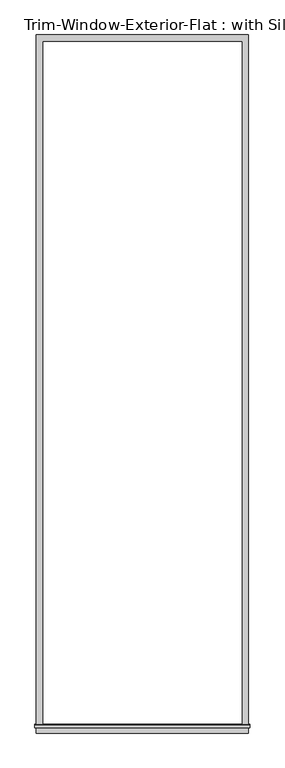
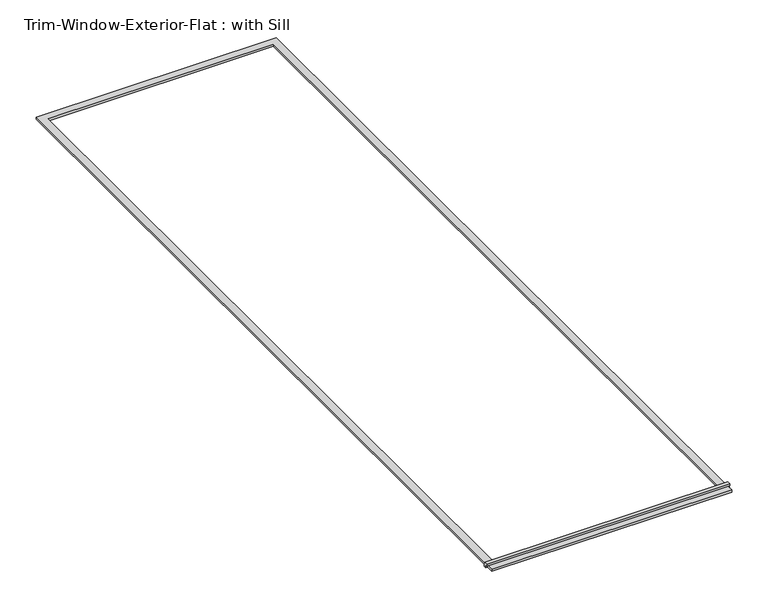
"""IFC4 building model written with IfcOpenShell, lengths in millimetres: proxy geometry, Trim-Window-Exterior-Flat : with Sill."""

from ifc_helpers import new_model, si_unit, frame, origin, origin_with_axes, place, context, project, spatial, polyline, outline, extrude, source, transform, mapped, element, save


def trim_window_exterior_flat_with_sill_953729a5(model_context):
    return source(origin(), model_context, "Body", "SweptSolid", [
        extrude(outline(polyline([(971.55, -6270.5823709), (971.55, -6327.7323709), (-971.55, -6327.7323709), (-971.55, -6270.5823709), (971.55, -6270.5823709)])), origin_with_axes(), (0.0, 0.0, 1.0), 19.05),
        extrude(outline(polyline([(-6280.15, 38.1), (-6250.8580645, 38.1), (-6248.4, 19.05), (-6248.4, 0.0), (-6270.5823709, 0.0), (-6270.5823709, 19.05), (-6280.15, 19.05), (-6280.15, 38.1)])), frame((-984.25, 0.0, 0.0), z_axis=(1.0, 0.0, 0.0), x_axis=(0.0, 1.0, 0.0)), (0.0, 0.0, 1.0), 1968.5),
        extrude(outline(polyline([(-971.55, 57.15), (971.55, 57.15), (971.55, -6248.4), (914.4, -6248.4), (914.4, 0.0), (-914.4, 0.0), (-914.4, -6248.4), (-971.55, -6248.4), (-971.55, 57.15)])), origin_with_axes(), (0.0, 0.0, 1.0), 19.05),
    ])


if __name__ == "__main__":
    model = new_model("IFC4")
    model_context = context("Model", 3, world=origin())
    ifc_project = project(units=[si_unit("LENGTHUNIT", "METRE", prefix="MILLI")], contexts=[model_context])
    site = spatial("IfcSite", under=ifc_project)
    building = spatial("IfcBuilding", under=site)
    placement = place(None, origin())
    trim_window_exterior_flat_with_sill_shape = trim_window_exterior_flat_with_sill_953729a5(model_context)
    element("IfcBuildingElementProxy", 1, Name="Trim-Window-Exterior-Flat : with Sill", ObjectType="Trim-Window-Exterior-Flat : with Sill", at=placement, inside=building, context=model_context, shape_type="MappedRepresentation", body=[
        mapped(trim_window_exterior_flat_with_sill_shape, transform((0.0, 0.0, 0.0), x_axis=(1.0, 0.0, 0.0), y_axis=(0.0, 1.0, 0.0), z_axis=(0.0, 0.0, 1.0))),
    ])
    save(model, "model.ifc")
